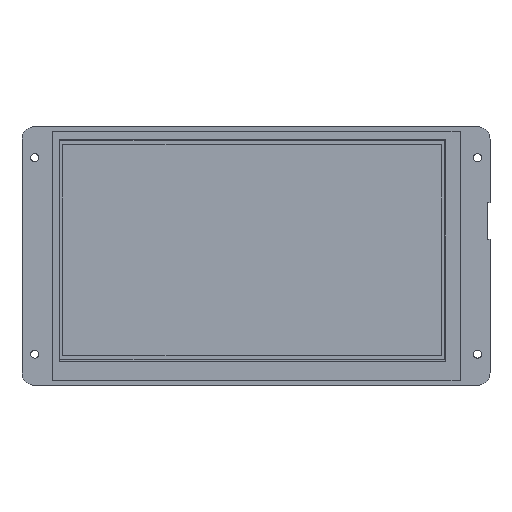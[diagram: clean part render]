
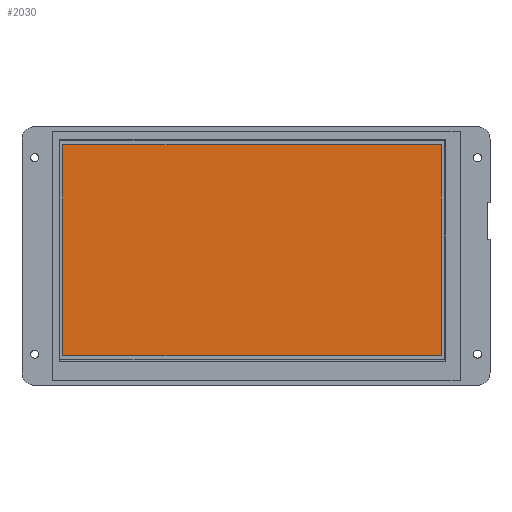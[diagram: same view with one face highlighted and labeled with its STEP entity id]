
A CAD part, top view. The second image highlights one B-rep face of the part: STEP entity #2030.
In plain terms, the highlighted planar face has unit normal (0, 0, 1).
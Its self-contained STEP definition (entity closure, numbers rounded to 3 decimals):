
#697=DIRECTION('',(-1.,0.,0.));
#698=VECTOR('',#697,154.21);
#699=CARTESIAN_POINT('',(172.002,98.846,7.7));
#700=LINE('',#699,#698);
#701=DIRECTION('',(0.,1.,0.));
#702=VECTOR('',#701,85.92);
#703=CARTESIAN_POINT('',(172.002,12.926,7.7));
#704=LINE('',#703,#702);
#705=DIRECTION('',(1.,0.,0.));
#706=VECTOR('',#705,154.21);
#707=CARTESIAN_POINT('',(17.792,12.926,7.7));
#708=LINE('',#707,#706);
#709=DIRECTION('',(0.,-1.,0.));
#710=VECTOR('',#709,85.92);
#711=CARTESIAN_POINT('',(17.792,98.846,7.7));
#712=LINE('',#711,#710);
#841=CARTESIAN_POINT('',(172.002,98.846,7.7));
#842=CARTESIAN_POINT('',(17.792,98.846,7.7));
#843=VERTEX_POINT('',#841);
#844=VERTEX_POINT('',#842);
#845=CARTESIAN_POINT('',(17.792,12.926,7.7));
#846=VERTEX_POINT('',#845);
#847=CARTESIAN_POINT('',(172.002,12.926,7.7));
#848=VERTEX_POINT('',#847);
#2019=CARTESIAN_POINT('',(0.,0.,7.7));
#2020=DIRECTION('',(0.,0.,1.));
#2021=DIRECTION('',(1.,0.,0.));
#2022=AXIS2_PLACEMENT_3D('',#2019,#2020,#2021);
#2023=PLANE('',#2022);
#2024=ORIENTED_EDGE('',*,*,#1971,.F.);
#2025=ORIENTED_EDGE('',*,*,#1986,.F.);
#2026=ORIENTED_EDGE('',*,*,#2000,.F.);
#2027=ORIENTED_EDGE('',*,*,#2013,.F.);
#2028=EDGE_LOOP('',(#2024,#2025,#2026,#2027));
#2029=FACE_OUTER_BOUND('',#2028,.F.);
#1971=EDGE_CURVE('',#843,#844,#700,.T.);
#1986=EDGE_CURVE('',#848,#843,#704,.T.);
#2000=EDGE_CURVE('',#846,#848,#708,.T.);
#2013=EDGE_CURVE('',#844,#846,#712,.T.);
#2030=ADVANCED_FACE('',(#2029),#2023,.T.);
